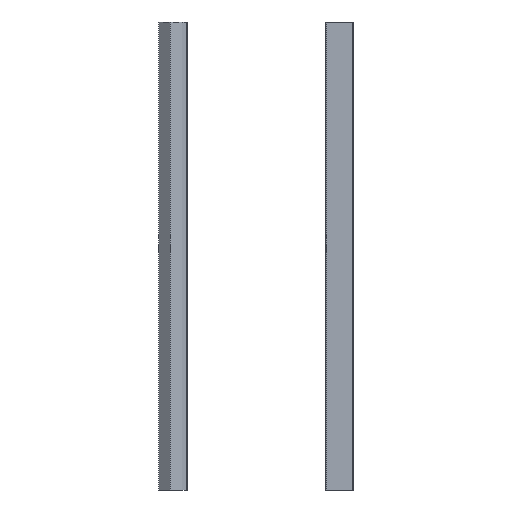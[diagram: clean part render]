
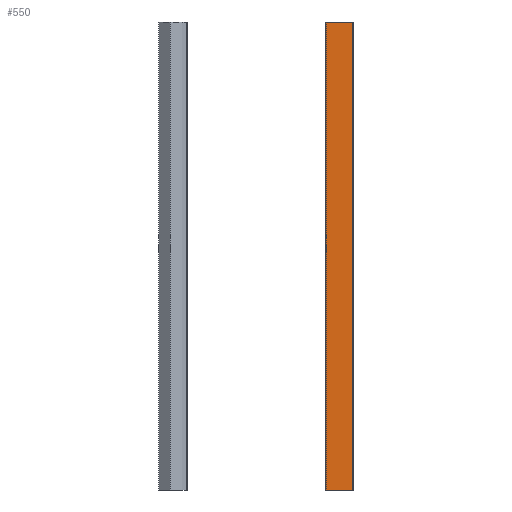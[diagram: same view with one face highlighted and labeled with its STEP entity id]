
A CAD part, left-side view. The second image highlights one B-rep face of the part: STEP entity #550.
In plain terms, the highlighted planar face has unit normal (-1, 0, 0) as drawn and (0, 0, -1) by its records, which use the part's own axes.
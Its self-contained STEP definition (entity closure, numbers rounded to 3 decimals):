
#6 = CARTESIAN_POINT ( 'NONE',  ( 2., 1654., -2. ) ) ;
#274 = VERTEX_POINT ( 'NONE', #856 ) ;
#547 = DIRECTION ( 'NONE',  ( 1., 0., 0. ) ) ;
#550 = ADVANCED_FACE ( 'NONE', ( #2059 ), #1755, .F. ) ;
#643 = CARTESIAN_POINT ( 'NONE',  ( 3., 0., -2. ) ) ;
#734 = AXIS2_PLACEMENT_3D ( 'NONE', #6, #771, #547 ) ;
#771 = DIRECTION ( 'NONE',  ( 0., 0., 1. ) ) ;
#786 = VECTOR ( 'NONE', #1789, 1000. ) ;
#856 = CARTESIAN_POINT ( 'NONE',  ( 95., 0., -2. ) ) ;
#889 = VERTEX_POINT ( 'NONE', #2021 ) ;
#911 = CARTESIAN_POINT ( 'NONE',  ( 3., 1654., -2. ) ) ;
#1120 = EDGE_CURVE ( 'NONE', #1573, #1698, #1209, .T. ) ;
#1203 = VECTOR ( 'NONE', #2465, 1000. ) ;
#1209 = LINE ( 'NONE', #911, #1203 ) ;
#1241 = LINE ( 'NONE', #2497, #1833 ) ;
#1249 = EDGE_CURVE ( 'NONE', #274, #1573, #1863, .T. ) ;
#1284 = ORIENTED_EDGE ( 'NONE', *, *, #1120, .T. ) ;
#1333 = VECTOR ( 'NONE', #1859, 1000. ) ;
#1513 = EDGE_CURVE ( 'NONE', #889, #1698, #1864, .T. ) ;
#1573 = VERTEX_POINT ( 'NONE', #643 ) ;
#1609 = CARTESIAN_POINT ( 'NONE',  ( 2., 1654., -2. ) ) ;
#1698 = VERTEX_POINT ( 'NONE', #2486 ) ;
#1721 = ORIENTED_EDGE ( 'NONE', *, *, #1249, .T. ) ;
#1755 = PLANE ( 'NONE',  #734 ) ;
#1789 = DIRECTION ( 'NONE',  ( -1., 0., 0. ) ) ;
#1833 = VECTOR ( 'NONE', #2504, 1000. ) ;
#1859 = DIRECTION ( 'NONE',  ( -1., 0., 0. ) ) ;
#1863 = LINE ( 'NONE', #2474, #1333 ) ;
#1864 = LINE ( 'NONE', #1609, #786 ) ;
#2021 = CARTESIAN_POINT ( 'NONE',  ( 95., 1654., -2. ) ) ;
#2054 = EDGE_CURVE ( 'NONE', #889, #274, #1241, .T. ) ;
#2059 = FACE_OUTER_BOUND ( 'NONE', #2266, .T. ) ;
#2266 = EDGE_LOOP ( 'NONE', ( #2488, #2268, #1721, #1284 ) ) ;
#2268 = ORIENTED_EDGE ( 'NONE', *, *, #2054, .T. ) ;
#2465 = DIRECTION ( 'NONE',  ( 0., 1., 0. ) ) ;
#2474 = CARTESIAN_POINT ( 'NONE',  ( 2., 0., -2. ) ) ;
#2486 = CARTESIAN_POINT ( 'NONE',  ( 3., 1654., -2. ) ) ;
#2488 = ORIENTED_EDGE ( 'NONE', *, *, #1513, .F. ) ;
#2497 = CARTESIAN_POINT ( 'NONE',  ( 95., 0., -2. ) ) ;
#2504 = DIRECTION ( 'NONE',  ( 0., -1., 0. ) ) ;
